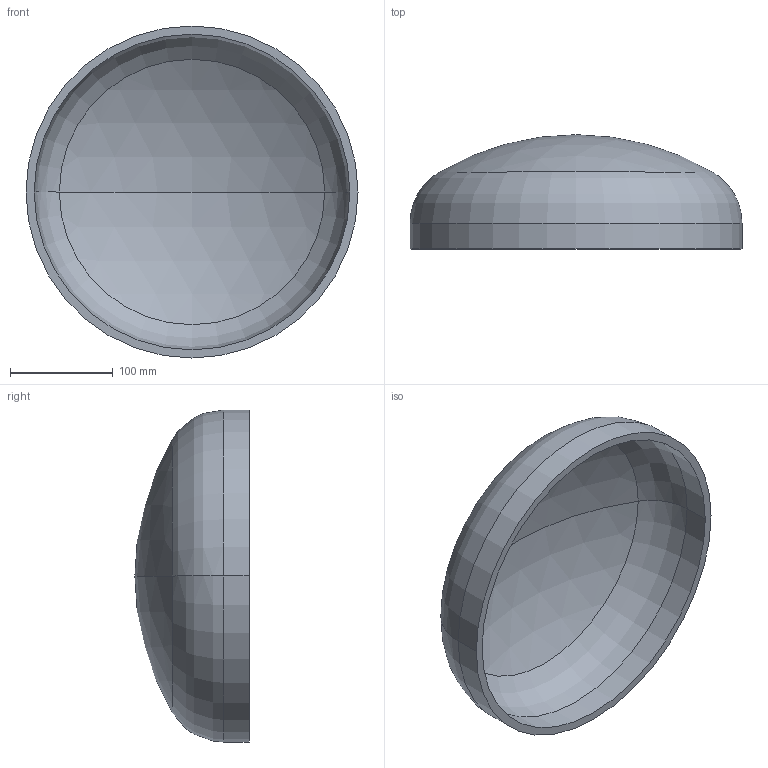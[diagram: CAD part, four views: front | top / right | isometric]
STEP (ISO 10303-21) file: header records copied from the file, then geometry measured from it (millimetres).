
FILE_DESCRIPTION (( 'STEP AP203' ), '1' );
FILE_NAME ('DIN 28013 Korbbogenform_-_Boden DIN 28013 - 323,9 x 25 - I - s=8.step', '2016-07-01T07:44:12', ( '' ), ( '' ), 'SwSTEP 2.0', 'SolidWorks 2013', '' );
FILE_SCHEMA (( 'CONFIG_CONTROL_DESIGN' ));
Length unit declared in the file: millimetre
Products named in the file (1): DIN 28013 Korbbogenform_-_Boden DIN 28013 - 323,9 x 25 - I - s=8
Bounding box: 323.9 x 111.47 x 323.9 mm (x, y, z)
Volume: 1084182.8 mm3; surface area: 279119.1 mm2
Topology: 1 solids, 1 shells, 13 faces, 24 edges, 14 vertices
Faces by surface type: torus 4, cylinder 4, sphere 4, plane 1
Entity records: 407 total; most frequent: DIRECTION 72, CARTESIAN_POINT 52, ORIENTED_EDGE 48, AXIS2_PLACEMENT_3D 34, EDGE_CURVE 24, CIRCLE 20, EDGE_LOOP 14, VERTEX_POINT 14
